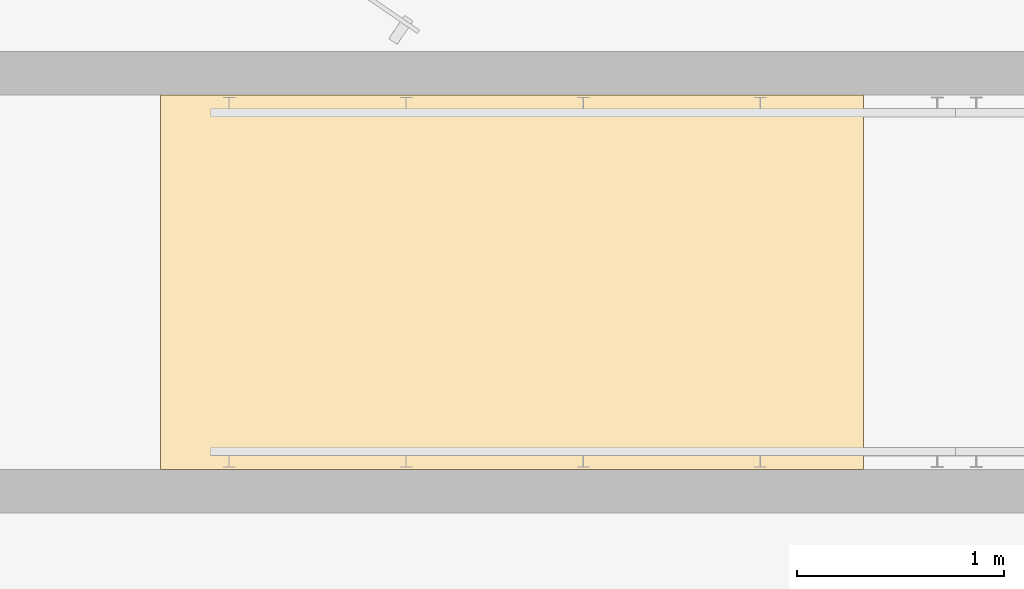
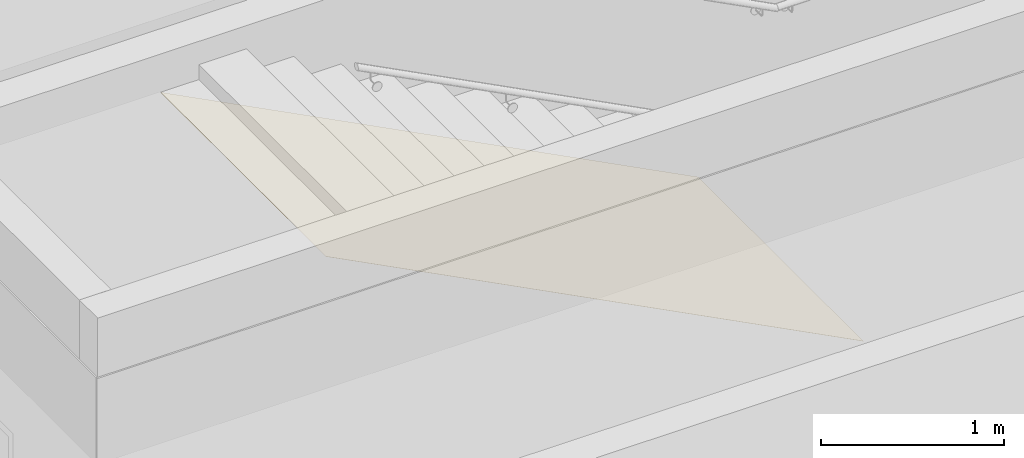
# One storey, part 182 of 246: 1 covering, 4 openings.
"""IFC2X3 building model written with IfcOpenShell, lengths in millimetres."""

from ifc_helpers import new_model, entity, si_unit, converted_unit, derived_unit, money_unit, direction, frame, origin_with_axes, place, context, subcontext, project, spatial, faceted_brep, material, type_object, element, save


model = new_model("IFC2X3")

# Units and contexts
model_context = context("Model", 3, precision=0.01, world=origin_with_axes(), true_north=direction((0.0, 1.0)))
body_context = subcontext(model_context, "Body", "Model", "MODEL_VIEW")
ifc_project = project(units=[si_unit("LENGTHUNIT", "METRE", prefix="MILLI"), si_unit("AREAUNIT", "SQUARE_METRE"), si_unit("VOLUMEUNIT", "CUBIC_METRE"), converted_unit("PLANEANGLEUNIT", "DEGREE", entity("IfcPlaneAngleMeasure", 0.0174532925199), si_unit("PLANEANGLEUNIT", "RADIAN"), dimensions=[0, 0, 0, 0, 0, 0, 0]), si_unit("SOLIDANGLEUNIT", "STERADIAN"), money_unit("EUR"), converted_unit("TIMEUNIT", "Year", entity("IfcTimeMeasure", 31556926.0), si_unit("TIMEUNIT", "SECOND"), dimensions=[0, 0, 1, 0, 0, 0, 0]), si_unit("MASSUNIT", "GRAM", prefix="KILO"), si_unit("THERMODYNAMICTEMPERATUREUNIT", "DEGREE_CELSIUS"), si_unit("LUMINOUSINTENSITYUNIT", "LUMEN"), si_unit("ENERGYUNIT", "JOULE", prefix="MEGA"), derived_unit("THERMALCONDUCTANCEUNIT", [(si_unit("POWERUNIT", "WATT"), 1), (si_unit("LENGTHUNIT", "METRE"), -1), (si_unit("THERMODYNAMICTEMPERATUREUNIT", "KELVIN"), -1)]), derived_unit("SPECIFICHEATCAPACITYUNIT", [(si_unit("ENERGYUNIT", "JOULE"), 1), (si_unit("MASSUNIT", "GRAM", prefix="KILO"), -1), (si_unit("THERMODYNAMICTEMPERATUREUNIT", "KELVIN"), -1)]), derived_unit("MASSDENSITYUNIT", [(si_unit("MASSUNIT", "GRAM", prefix="KILO"), 1), (si_unit("VOLUMEUNIT", "CUBIC_METRE"), -1)])], contexts=[model_context])

# Site, building, storey
site_placement = place(None, origin_with_axes())
site = spatial("IfcSite", under=ifc_project, at=site_placement, Name="L.Koidula tn 11b", CompositionType="ELEMENT")
building_placement = place(site_placement, origin_with_axes())
building = spatial("IfcBuilding", under=site, at=building_placement, Name="Rakvere Riigigümnaasium", CompositionType="ELEMENT")
storey_placement = place(building_placement, origin_with_axes())
storey = spatial("IfcBuildingStorey", under=building, at=storey_placement, Name="1.korrus 0,00", CompositionType="ELEMENT", Elevation=0.0)

# Covering, openings
ifc_material = material(Name="Tolmutõke")
covering_type = type_object("IfcCoveringType", Name="Tolmutõke 1", PredefinedType="CLADDING")
covering_placement = place(storey_placement, frame((77547.8374145, 16909.010911, 3463.87449942), z_axis=(0.0, 0.0, 1.0), x_axis=(2.35970032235e-08, -1.0, 0.0)))
covering = element("IfcCovering", 1, at=covering_placement, inside=storey, type_object=covering_type, material=ifc_material, Name="L-07", PredefinedType="CLADDING", context=body_context, shape_type="Brep", body=[
    faceted_brep([(-201.360120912, -0.000221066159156, 1.12570048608), (1608.65972085, 0.000221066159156, 1.12547205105), (1608.65980101, 3396.77429428, -1753.87447736), (-201.360040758, 3396.77433699, -1753.87449942), (-201.360121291, -0.00022141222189, 0.000114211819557), (1608.65972106, 0.000221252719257, -0.000114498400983), (1608.65980115, 3396.77429394, -1755.00006363), (-201.360041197, 3396.77433696, -1755.00008586)], [[[0, 1, 2, 3]], [[1, 0, 4, 5]], [[2, 1, 5, 6]], [[3, 2, 6, 7]], [[0, 3, 7, 4]], [[5, 4, 7, 6]]]),
])
opening_1_placement = place(covering_placement, frame((866.212990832, 9281.96710705, 8354.74045617), z_axis=(0.0, 0.0, 1.0), x_axis=(1.0, 0.0, 0.0)))
element("IfcOpeningElement", 2, at=opening_1_placement, cuts=covering, Name="Ava ripplaes", context=body_context, shape_type="Brep", body=[
    faceted_brep([(600.172309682, -1193.2350934, -3337.44582161), (-599.827677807, -1193.40837368, -3337.44582161), (-599.826462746, -1201.82291488, -3417.50483418), (600.173524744, -1201.6496346, -3417.50483418), (599.999978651, 0.191168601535, -3462.87997753), (-600.000008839, 0.0178883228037, -3462.87997753), (-599.998793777, -8.39665288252, -3542.93899011), (600.001193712, -8.22337260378, -3542.93899011)], [[[0, 1, 2, 3]], [[0, 4, 5, 1]], [[1, 5, 6, 2]], [[3, 2, 6, 7]], [[4, 0, 3, 7]], [[5, 4, 7, 6]]]),
])
opening_2_placement = place(covering_placement, frame((866.212906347, 5701.68789065, 8731.04296132), z_axis=(0.0, 0.0, 1.0), x_axis=(1.0, 0.0, 0.0)))
element("IfcOpeningElement", 3, at=opening_2_placement, cuts=covering, Name="Ava ripplaes", context=body_context, shape_type="Brep", body=[
    faceted_brep([(600.172309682, -1193.2350934, -3337.44582161), (-599.827677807, -1193.40837368, -3337.44582161), (-599.826462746, -1201.82291488, -3417.50483418), (600.173524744, -1201.6496346, -3417.50483418), (599.999978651, 0.191168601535, -3462.87997753), (-600.000008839, 0.0178883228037, -3462.87997753), (-599.998793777, -8.39665288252, -3542.93899011), (600.001193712, -8.22337260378, -3542.93899011)], [[[0, 1, 2, 3]], [[0, 4, 5, 1]], [[1, 5, 6, 2]], [[3, 2, 6, 7]], [[4, 0, 3, 7]], [[5, 4, 7, 6]]]),
])
opening_3_placement = place(covering_placement, frame((866.213159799, 16442.5261855, 7602.135378), z_axis=(0.0, 0.0, 1.0), x_axis=(1.0, 0.0, 0.0)))
element("IfcOpeningElement", 4, at=opening_3_placement, cuts=covering, Name="Ava ripplaes", context=body_context, shape_type="Brep", body=[
    faceted_brep([(600.172309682, -1193.2350934, -3337.44582161), (-599.827677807, -1193.40837368, -3337.44582161), (-599.826462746, -1201.82291488, -3417.50483418), (600.173524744, -1201.6496346, -3417.50483418), (599.999978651, 0.191168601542, -3462.87997753), (-600.000008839, 0.0178883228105, -3462.87997753), (-599.998793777, -8.39665288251, -3542.93899011), (600.001193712, -8.22337260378, -3542.93899011)], [[[0, 1, 2, 3]], [[0, 4, 5, 1]], [[1, 5, 6, 2]], [[3, 2, 6, 7]], [[4, 0, 3, 7]], [[5, 4, 7, 6]]]),
])
opening_4_placement = place(covering_placement, frame((866.040969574, 23603.0848335, 6849.53034246), z_axis=(0.0, 0.0, 1.0), x_axis=(1.0, 0.0, 0.0)))
element("IfcOpeningElement", 5, at=opening_4_placement, cuts=covering, Name="Ava ripplaes", context=body_context, shape_type="Brep", body=[
    faceted_brep([(600.172309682, -1193.2350934, -3337.44582161), (-599.827677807, -1193.40837368, -3337.44582161), (-599.826462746, -1201.82291488, -3417.50483418), (600.173524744, -1201.6496346, -3417.50483418), (599.999978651, 0.191168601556, -3462.87997753), (-600.000008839, 0.0178883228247, -3462.87997753), (-599.998793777, -8.39665288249, -3542.93899011), (600.001193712, -8.22337260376, -3542.93899011)], [[[0, 1, 2, 3]], [[0, 4, 5, 1]], [[1, 5, 6, 2]], [[3, 2, 6, 7]], [[4, 0, 3, 7]], [[5, 4, 7, 6]]]),
])

save(model, "model.ifc")
